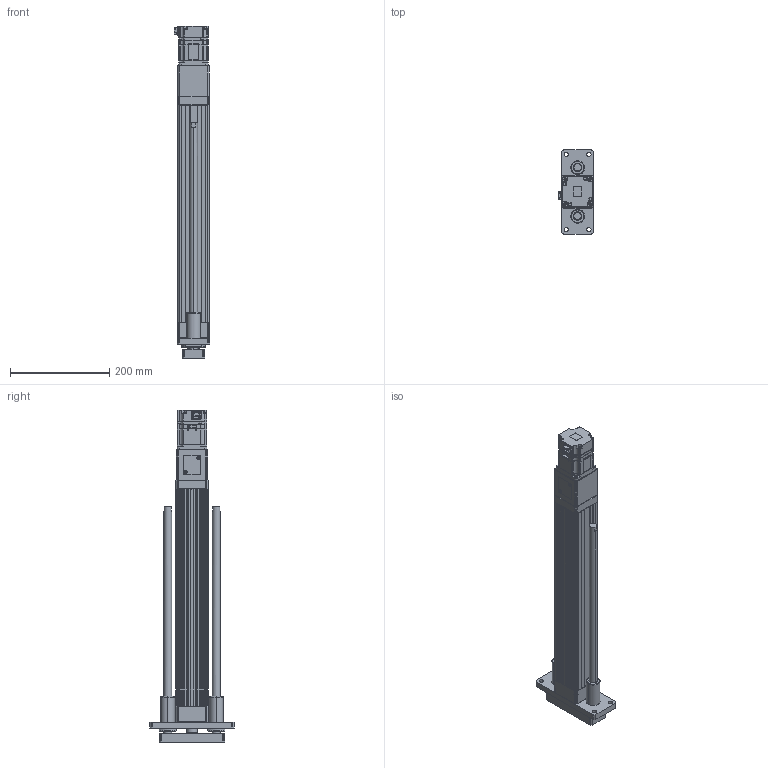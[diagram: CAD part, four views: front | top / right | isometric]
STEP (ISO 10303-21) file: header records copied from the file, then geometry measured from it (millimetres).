
FILE_DESCRIPTION (( 'STEP AP203' ), '1' );
FILE_NAME ('ANS065-GS350-05(10)-W20.STEP', '2019-02-28T08:46:51', ( 'user' ), ( '' ), 'SwSTEP 2.0', 'SolidWorks 2013', '' );
FILE_SCHEMA (( 'CONFIG_CONTROL_DESIGN' ));
Length unit declared in the file: millimetre
Products named in the file (4): ANS065 ROD ST350 G; sgmjv_02a_a21; ANS065-GS350-05(10)-W20; ANS065 GS350 VER2
Assembly tree (3 placements, depth 2):
  ANS065-GS350-05(10)-W20
    ANS065 GS350 VER2
    ANS065 ROD ST350 G
    sgmjv_02a_a21
Bounding box: 71.3 x 170 x 670.6 mm (x, y, z)
Volume: 2056572.6 mm3; surface area: 503928.9 mm2
Topology: 3 solids, 19 shells, 1500 faces, 3817 edges, 2439 vertices
Faces by surface type: plane 832, cylinder 482, cone 182, torus 4
Entity records: 45333 total; most frequent: CARTESIAN_POINT 7996, DIRECTION 7837, ORIENTED_EDGE 7570, EDGE_CURVE 3785, AXIS2_PLACEMENT_3D 2626, VECTOR 2585, LINE 2585, VERTEX_POINT 2439
